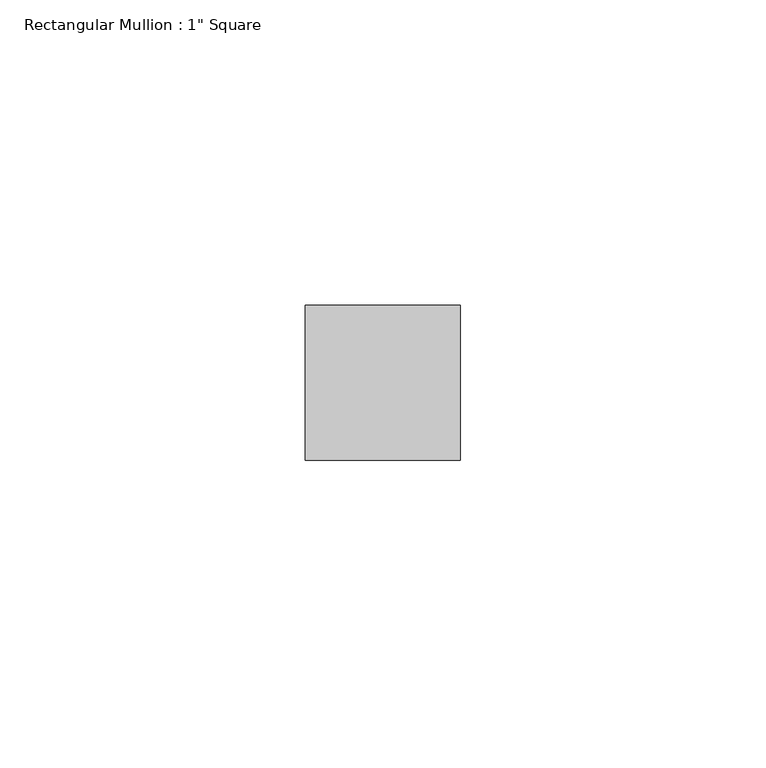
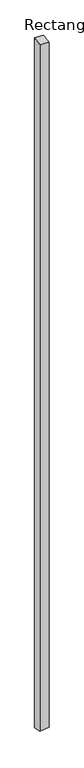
"""IFC4 building model written with IfcOpenShell, lengths in millimetres: member geometry."""

import ifcopenshell
import ifcopenshell.guid

model = None  # the IFC model being written
_history = None  # IfcOwnerHistory: only IFC2X3 demands one
_inside = {}  # id of a spatial element -> (the spatial element, [elements in it])
_under = {}  # id of a project, library or spatial element -> (it, [spatial elements below it])
_declared = {}  # id of a project -> (the project, [libraries it declares])
_typed = {}  # id of a type object -> (the type object, [elements of that type])
_made_of = {}  # id of a material, layer set ... -> (it, [elements and type objects made of it])


def new_model(schema):
    """Start an empty IFC model of exactly this schema.

    Asked for "IFC4X3", IfcOpenShell would pick the latest addendum, in which some entities
    have other attributes; the version numbers below select the first issue.
    IFC2X3 requires an IfcOwnerHistory on every rooted entity: one is made here for all.
    """
    global model, _history
    if schema == "IFC4X3":
        model = ifcopenshell.file(schema_version=(4, 3, 0, 0))
    else:
        model = ifcopenshell.file(schema=schema)
    _inside.clear()
    _under.clear()
    _declared.clear()
    _typed.clear()
    _made_of.clear()
    _history = None
    if model.schema == "IFC2X3":
        org = make("IfcOrganization", Name="unknown")
        user = make(
            "IfcPersonAndOrganization",
            ThePerson=make("IfcPerson", FamilyName="unknown"),
            TheOrganization=org,
        )
        app = make(
            "IfcApplication",
            ApplicationDeveloper=org,
            Version="unknown",
            ApplicationFullName="unknown",
            ApplicationIdentifier="unknown",
        )
        _history = make(
            "IfcOwnerHistory",
            OwningUser=user,
            OwningApplication=app,
            ChangeAction="ADDED",
            CreationDate=0,
        )
    return model


def make(cls, **values):
    """One entity of the class cls with the attributes given. An attribute that is None is left unset."""
    return model.create_entity(
        cls, **{name: value for name, value in values.items() if value is not None}
    )


def rooted(cls, **values):
    """An entity with a GlobalId (a new one), such as an element, a storey or a relation."""
    return make(cls, GlobalId=ifcopenshell.guid.new(), OwnerHistory=_history, **values)


def si_unit(unit_type, name, prefix=None):
    """IfcSIUnit, for example si_unit("LENGTHUNIT", "METRE", prefix="MILLI")."""
    return make("IfcSIUnit", UnitType=unit_type, Prefix=prefix, Name=name)


def assignment(units):
    """IfcUnitAssignment: the units of a project."""
    return None if units is None else make("IfcUnitAssignment", Units=units)


def point(xyz):
    """IfcCartesianPoint."""
    return None if xyz is None else make("IfcCartesianPoint", Coordinates=xyz)


def direction(xyz):
    """IfcDirection."""
    return None if xyz is None else make("IfcDirection", DirectionRatios=xyz)


def frame(location, z_axis=None, x_axis=None):
    """IfcAxis2Placement3D, a coordinate frame: its origin and axes. An axis left out is left unset."""
    return make(
        "IfcAxis2Placement3D",
        Location=point(location),
        Axis=direction(z_axis),
        RefDirection=direction(x_axis),
    )


def origin():
    """The frame at (0, 0, 0) with its axes left unset."""
    return frame((0.0, 0.0, 0.0))


def place(relative_to, where):
    """IfcLocalPlacement: puts the frame where relative to a parent placement (None: the world)."""
    return make(
        "IfcLocalPlacement", PlacementRelTo=relative_to, RelativePlacement=where
    )


def context(
    kind, dimensions, precision=None, world=None, true_north=None, identifier=None
):
    """IfcGeometricRepresentationContext, for example the 3D "Model" context."""
    return make(
        "IfcGeometricRepresentationContext",
        ContextIdentifier=identifier,
        ContextType=kind,
        CoordinateSpaceDimension=dimensions,
        Precision=precision,
        WorldCoordinateSystem=world,
        TrueNorth=true_north,
    )


def project(units=None, contexts=None):
    """IfcProject with its units and contexts."""
    return rooted(
        "IfcProject",
        Name="project",
        RepresentationContexts=contexts,
        UnitsInContext=assignment(units),
    )


def spatial(cls, under=None, at=None, **own):
    """A site, building, storey or space (cls), placed at a placement, below another one or the project."""
    s = rooted(cls, ObjectPlacement=at, **own)
    if under is not None:
        _under.setdefault(under.id(), (under, []))[1].append(s)
    return s


def faces_of(points, faces, orient=None, outer=None):
    """IfcFace entities. A face is a list of loops; a loop is a list of indices into points, from 0.

    orient and outer hold one flag for each loop. By default every Orientation is true, the
    first loop of a face is its IfcFaceOuterBound and the others are IfcFaceBound.
    """
    made = []
    for i, loops in enumerate(faces):
        bounds = []
        for j, loop in enumerate(loops):
            is_outer = j == 0 if outer is None else outer[i][j]
            bounds.append(
                make(
                    "IfcFaceOuterBound" if is_outer else "IfcFaceBound",
                    Bound=make("IfcPolyLoop", Polygon=[points[k] for k in loop]),
                    Orientation=True if orient is None else orient[i][j],
                )
            )
        made.append(make("IfcFace", Bounds=bounds))
    return made


def faceted_brep(points, faces, orient=None, outer=None, voids=None):
    """IfcFacetedBrep: a solid bounded by flat faces; with voids (closed shells), ...WithVoids."""
    shared = [point(p) for p in points]
    hull = make("IfcClosedShell", CfsFaces=faces_of(shared, faces, orient, outer))
    if voids is None:
        return make("IfcFacetedBrep", Outer=hull)
    return make(
        "IfcFacetedBrepWithVoids",
        Outer=hull,
        Voids=[
            make(cls, CfsFaces=faces_of(shared, fs, o, b)) for cls, fs, o, b in voids
        ],
    )


def shape(context_of_items, identifier, shape_type, items):
    """IfcShapeRepresentation: the items that make up one representation, for example the "Body"."""
    return make(
        "IfcShapeRepresentation",
        ContextOfItems=context_of_items,
        RepresentationIdentifier=identifier,
        RepresentationType=shape_type,
        Items=items,
    )


def source(mapping_origin, context_of_items, identifier, shape_type, items):
    """IfcRepresentationMap: a shape defined once, which mapped items show again and again."""
    return make(
        "IfcRepresentationMap",
        MappingOrigin=mapping_origin,
        MappedRepresentation=shape(context_of_items, identifier, shape_type, items),
    )


def transform(
    local_origin,
    x_axis=None,
    y_axis=None,
    z_axis=None,
    scale=None,
    scale2=None,
    scale3=None,
    uniform=True,
):
    """IfcCartesianTransformationOperator3D, or its non-uniform kind. x_axis, y_axis, z_axis: its Axis1, 2, 3."""
    if uniform:
        return make(
            "IfcCartesianTransformationOperator3D",
            Axis1=direction(x_axis),
            Axis2=direction(y_axis),
            LocalOrigin=point(local_origin),
            Scale=scale,
            Axis3=direction(z_axis),
        )
    return make(
        "IfcCartesianTransformationOperator3DnonUniform",
        Axis1=direction(x_axis),
        Axis2=direction(y_axis),
        LocalOrigin=point(local_origin),
        Scale=scale,
        Axis3=direction(z_axis),
        Scale2=scale2,
        Scale3=scale3,
    )


def mapped(mapping_source, mapping_target):
    """IfcMappedItem: shows the shape of a source again, moved by a transform."""
    return make(
        "IfcMappedItem", MappingSource=mapping_source, MappingTarget=mapping_target
    )


def made_of(thing, what):
    """Note that an element or type object is made of a material, layer set ...; save() writes the relation."""
    if what is not None:
        _made_of.setdefault(what.id(), (what, []))[1].append(thing)
    return thing


def element(
    cls,
    number,
    at=None,
    inside=None,
    cuts=None,
    type_object=None,
    material=None,
    context=None,
    identifier="Body",
    shape_type=None,
    held_by="IfcProductDefinitionShape",
    body=None,
    shapes=None,
    **own,
):
    """One element of the class cls, such as IfcWall. Its Tag is "e" and its number.

    at: its placement. inside: the storey or other place that contains it. cuts: it is an
    opening in that element (IfcRelVoidsElement). A single representation is given by context,
    identifier, shape_type and body (its items); several are given by shapes. held_by: the class
    of the entity that holds the representations. save() writes the other relations.
    """
    e = rooted(cls, Tag="e%d" % number, ObjectPlacement=at, **own)
    if body is not None:
        shapes = [shape(context, identifier, shape_type, body)]
    if shapes is not None:
        e.Representation = make(held_by, Representations=shapes)
    if inside is not None:
        _inside.setdefault(inside.id(), (inside, []))[1].append(e)
    if cuts is not None:
        rooted(
            "IfcRelVoidsElement", RelatingBuildingElement=cuts, RelatedOpeningElement=e
        )
    if type_object is not None:
        _typed.setdefault(type_object.id(), (type_object, []))[1].append(e)
    return made_of(e, material)


def aggregate(whole, parts):
    """IfcRelAggregates: a whole, such as a stair, and the parts it consists of."""
    return rooted("IfcRelAggregates", RelatingObject=whole, RelatedObjects=parts)


def save(model, path):
    """Write the relations noted so far, then the file.

    IfcRelAggregates (storeys below a building ...), IfcRelContainedInSpatialStructure (elements
    in a storey), IfcRelDefinesByType, IfcRelAssociatesMaterial and IfcRelDeclares: one each for
    every whole, place, type object, material and project.
    """
    for whole, parts in _under.values():
        aggregate(whole, parts)
    for where, things in _inside.values():
        rooted(
            "IfcRelContainedInSpatialStructure",
            RelatedElements=things,
            RelatingStructure=where,
        )
    for kind, things in _typed.values():
        rooted("IfcRelDefinesByType", RelatedObjects=things, RelatingType=kind)
    for what, things in _made_of.values():
        rooted("IfcRelAssociatesMaterial", RelatedObjects=things, RelatingMaterial=what)
    for by, libraries in _declared.values():
        rooted("IfcRelDeclares", RelatingContext=by, RelatedDefinitions=libraries)
    model.write(path)


def member_dd61f749(model_context):
    return source(origin(), model_context, "Body", "Brep", [
        faceted_brep([(-12.7, 12.7, 3.1320873), (12.7, 12.7, 1.4803881), (12.7, 12.7, -2037.3861723), (-12.7, 12.7, -2039.4630316), (-12.7, -12.7, -1.4803881), (-12.7, -12.7, -2033.6632693), (12.7, -12.7, -3.1320873), (12.7, -12.7, -2031.5864099)], [[[0, 1, 2, 3]], [[4, 0, 3, 5]], [[6, 4, 5, 7]], [[1, 6, 7, 2]], [[1, 0, 4, 6]], [[2, 7, 5, 3]]]),
    ])


if __name__ == "__main__":
    model = new_model("IFC4")
    model_context = context("Model", 3, world=origin())
    ifc_project = project(units=[si_unit("LENGTHUNIT", "METRE", prefix="MILLI")], contexts=[model_context])
    site = spatial("IfcSite", under=ifc_project)
    building = spatial("IfcBuilding", under=site)
    placement = place(None, origin())
    member_shape = member_dd61f749(model_context)
    element("IfcMember", 1, ObjectType="Rectangular Mullion : 1\" Square", at=placement, inside=building, context=model_context, shape_type="MappedRepresentation", body=[
        mapped(member_shape, transform((0.0, 0.0, 0.0), x_axis=(1.0, 0.0, 0.0), y_axis=(0.0, 1.0, 0.0), z_axis=(0.0, 0.0, 1.0))),
    ])
    save(model, "model.ifc")
